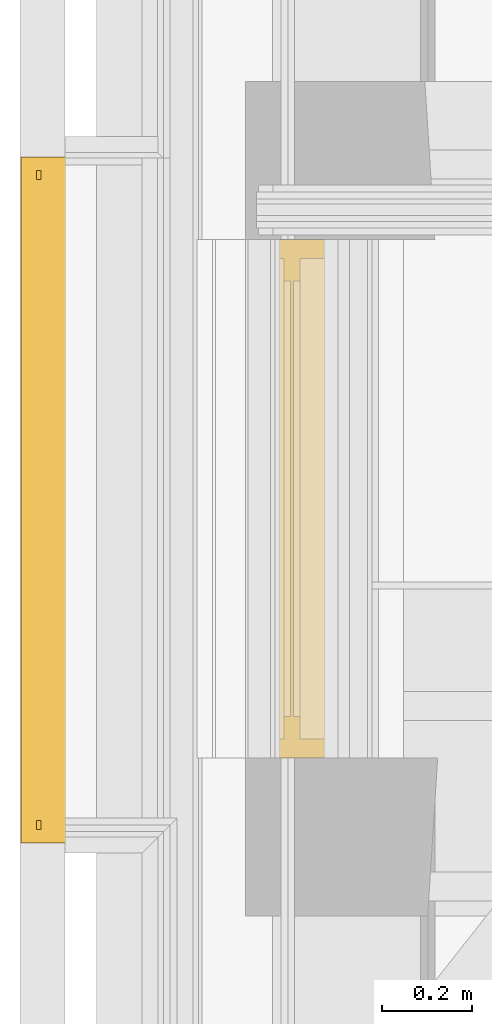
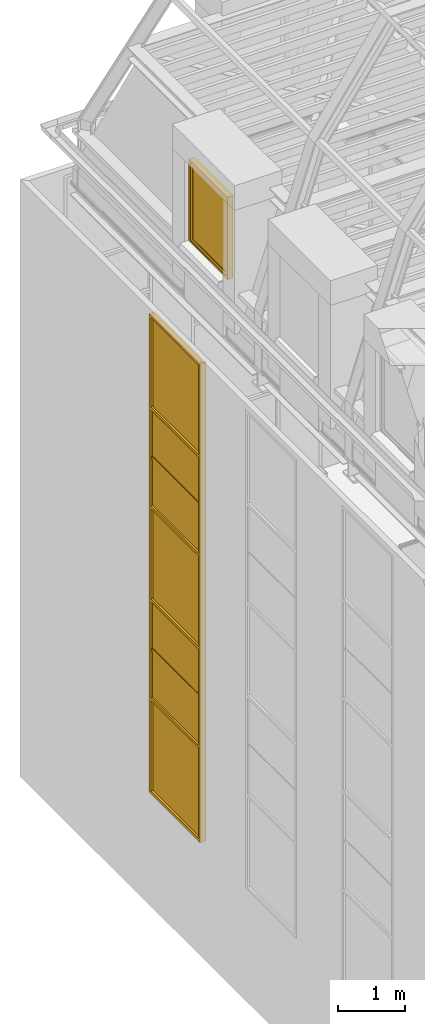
# One storey, part 122 of 183: 1 curtain wall, 1 window.
"""IFC2X3 building model written with IfcOpenShell, lengths in metres."""

from ifc_helpers import new_model, entity, si_unit, converted_unit, derived_unit, money_unit, direction, frame, origin_with_axes, place, context, subcontext, project, spatial, faceted_brep, material, type_object, element, save


model = new_model("IFC2X3")

# Units and contexts
model_context = context("Model", 3, precision=1e-05, world=origin_with_axes(), true_north=direction((0.0, 1.0)))
body_context = subcontext(model_context, "Body", "Model", "MODEL_VIEW", scale=1.0)
ifc_project = project(units=[si_unit("LENGTHUNIT", "METRE"), si_unit("AREAUNIT", "SQUARE_METRE"), si_unit("VOLUMEUNIT", "CUBIC_METRE"), si_unit("ABSORBEDDOSEUNIT", "GRAY"), si_unit("AMOUNTOFSUBSTANCEUNIT", "MOLE"), si_unit("DOSEEQUIVALENTUNIT", "SIEVERT"), si_unit("ELECTRICCAPACITANCEUNIT", "FARAD"), si_unit("ELECTRICCHARGEUNIT", "COULOMB"), si_unit("ELECTRICCONDUCTANCEUNIT", "SIEMENS"), si_unit("ELECTRICCURRENTUNIT", "AMPERE"), si_unit("ELECTRICRESISTANCEUNIT", "OHM"), si_unit("ELECTRICVOLTAGEUNIT", "VOLT"), si_unit("ENERGYUNIT", "JOULE"), si_unit("FORCEUNIT", "NEWTON"), si_unit("FREQUENCYUNIT", "HERTZ"), si_unit("ILLUMINANCEUNIT", "LUX"), si_unit("INDUCTANCEUNIT", "HENRY"), si_unit("LUMINOUSFLUXUNIT", "LUMEN"), si_unit("LUMINOUSINTENSITYUNIT", "CANDELA"), si_unit("MAGNETICFLUXDENSITYUNIT", "TESLA"), si_unit("MAGNETICFLUXUNIT", "WEBER"), si_unit("MASSUNIT", "GRAM"), converted_unit("PLANEANGLEUNIT", "degree", entity("IfcReal", 0.0174532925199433), si_unit("PLANEANGLEUNIT", "RADIAN"), dimensions=[0, 0, 0, 0, 0, 0, 0]), si_unit("POWERUNIT", "WATT"), si_unit("PRESSUREUNIT", "PASCAL"), si_unit("RADIOACTIVITYUNIT", "BECQUEREL"), si_unit("SOLIDANGLEUNIT", "STERADIAN"), si_unit("THERMODYNAMICTEMPERATUREUNIT", "KELVIN"), si_unit("TIMEUNIT", "SECOND"), derived_unit("ACCELERATIONUNIT", [(si_unit("LENGTHUNIT", "METRE"), 1), (si_unit("TIMEUNIT", "SECOND"), -2)]), derived_unit("ANGULARVELOCITYUNIT", [(converted_unit("PLANEANGLEUNIT", "degree", entity("IfcReal", 0.0174532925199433), si_unit("PLANEANGLEUNIT", "RADIAN"), dimensions=[0, 0, 0, 0, 0, 0, 0]), 1), (si_unit("TIMEUNIT", "SECOND"), -1)]), derived_unit("CURVATUREUNIT", [(converted_unit("PLANEANGLEUNIT", "degree", entity("IfcReal", 0.0174532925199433), si_unit("PLANEANGLEUNIT", "RADIAN"), dimensions=[0, 0, 0, 0, 0, 0, 0]), 1), (si_unit("LENGTHUNIT", "METRE"), -1)]), derived_unit("DYNAMICVISCOSITYUNIT", [(si_unit("PRESSUREUNIT", "PASCAL"), 1), (si_unit("TIMEUNIT", "SECOND"), 1)]), derived_unit("HEATFLUXDENSITYUNIT", [(si_unit("POWERUNIT", "WATT"), 1), (si_unit("LENGTHUNIT", "METRE"), -2)]), derived_unit("HEATINGVALUEUNIT", [(si_unit("ENERGYUNIT", "JOULE"), 1), (si_unit("MASSUNIT", "GRAM"), -1)]), derived_unit("INTEGERCOUNTRATEUNIT", [(si_unit("TIMEUNIT", "SECOND"), -1)]), derived_unit("IONCONCENTRATIONUNIT", [(si_unit("MASSUNIT", "GRAM"), 1), (si_unit("VOLUMEUNIT", "CUBIC_METRE"), -1)]), derived_unit("ISOTHERMALMOISTURECAPACITYUNIT", [(si_unit("VOLUMEUNIT", "CUBIC_METRE"), 1), (si_unit("MASSUNIT", "GRAM"), -1)]), derived_unit("KINEMATICVISCOSITYUNIT", [(si_unit("AREAUNIT", "SQUARE_METRE"), 1), (si_unit("TIMEUNIT", "SECOND"), -1)]), derived_unit("LINEARFORCEUNIT", [(si_unit("FORCEUNIT", "NEWTON"), 1), (si_unit("LENGTHUNIT", "METRE"), -1)]), derived_unit("LINEARMOMENTUNIT", [(si_unit("FORCEUNIT", "NEWTON"), 1), (si_unit("LENGTHUNIT", "METRE"), -1)]), derived_unit("LINEARSTIFFNESSUNIT", [(si_unit("FORCEUNIT", "NEWTON"), 1), (si_unit("LENGTHUNIT", "METRE"), -1)]), derived_unit("LINEARVELOCITYUNIT", [(si_unit("LENGTHUNIT", "METRE"), 1), (si_unit("TIMEUNIT", "SECOND"), -1)]), derived_unit("LUMINOUSINTENSITYDISTRIBUTIONUNIT", [(si_unit("LUMINOUSINTENSITYUNIT", "CANDELA"), 1), (si_unit("LUMINOUSFLUXUNIT", "LUMEN"), -1)]), derived_unit("MASSDENSITYUNIT", [(si_unit("MASSUNIT", "GRAM"), 1), (si_unit("VOLUMEUNIT", "CUBIC_METRE"), -1)]), derived_unit("MASSFLOWRATEUNIT", [(si_unit("MASSUNIT", "GRAM"), 1), (si_unit("TIMEUNIT", "SECOND"), -1)]), derived_unit("MASSPERLENGTHUNIT", [(si_unit("MASSUNIT", "GRAM"), 1), (si_unit("LENGTHUNIT", "METRE"), -1)]), derived_unit("MODULUSOFELASTICITYUNIT", [(si_unit("FORCEUNIT", "NEWTON"), 1), (si_unit("AREAUNIT", "SQUARE_METRE"), -1)]), derived_unit("MODULUSOFLINEARSUBGRADEREACTIONUNIT", [(si_unit("FORCEUNIT", "NEWTON"), 1), (si_unit("LENGTHUNIT", "METRE"), -2)]), derived_unit("MODULUSOFROTATIONALSUBGRADEREACTIONUNIT", [(si_unit("FORCEUNIT", "NEWTON"), 1), (si_unit("LENGTHUNIT", "METRE"), 1)]), derived_unit("MODULUSOFSUBGRADEREACTIONUNIT", [(si_unit("FORCEUNIT", "NEWTON"), 1), (si_unit("VOLUMEUNIT", "CUBIC_METRE"), -1)]), derived_unit("MOISTUREDIFFUSIVITYUNIT", [(si_unit("VOLUMEUNIT", "CUBIC_METRE"), 1), (si_unit("TIMEUNIT", "SECOND"), -1)]), derived_unit("MOLECULARWEIGHTUNIT", [(si_unit("MASSUNIT", "GRAM"), 1), (si_unit("AMOUNTOFSUBSTANCEUNIT", "MOLE"), -1)]), derived_unit("PLANARFORCEUNIT", [(si_unit("FORCEUNIT", "NEWTON"), 1), (si_unit("LENGTHUNIT", "METRE"), -2)]), derived_unit("ROTATIONALFREQUENCYUNIT", [(si_unit("TIMEUNIT", "SECOND"), -1)]), derived_unit("ROTATIONALMASSUNIT", [(si_unit("MASSUNIT", "GRAM"), 1), (si_unit("LENGTHUNIT", "METRE"), 2)]), derived_unit("ROTATIONALSTIFFNESSUNIT", [(si_unit("FORCEUNIT", "NEWTON"), 1), (si_unit("LENGTHUNIT", "METRE"), 1), (converted_unit("PLANEANGLEUNIT", "degree", entity("IfcReal", 0.0174532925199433), si_unit("PLANEANGLEUNIT", "RADIAN"), dimensions=[0, 0, 0, 0, 0, 0, 0]), -1)]), derived_unit("SECTIONAREAINTEGRALUNIT", [(si_unit("LENGTHUNIT", "METRE"), 5)]), derived_unit("SECTIONMODULUSUNIT", [(si_unit("LENGTHUNIT", "METRE"), 3)]), derived_unit("SHEARMODULUSUNIT", [(si_unit("FORCEUNIT", "NEWTON"), 1), (si_unit("AREAUNIT", "SQUARE_METRE"), -1)]), derived_unit("SOUNDPOWERUNIT", [(si_unit("ENERGYUNIT", "JOULE"), 1), (si_unit("TIMEUNIT", "SECOND"), -1)]), derived_unit("SPECIFICHEATCAPACITYUNIT", [(si_unit("FORCEUNIT", "NEWTON"), 1), (si_unit("MASSUNIT", "GRAM"), -1), (si_unit("THERMODYNAMICTEMPERATUREUNIT", "KELVIN"), -1)]), derived_unit("TEMPERATUREGRADIENTUNIT", [(si_unit("THERMODYNAMICTEMPERATUREUNIT", "KELVIN"), 1), (si_unit("LENGTHUNIT", "METRE"), -1)]), derived_unit("THERMALADMITTANCEUNIT", [(si_unit("POWERUNIT", "WATT"), 1), (si_unit("AREAUNIT", "SQUARE_METRE"), -1), (si_unit("THERMODYNAMICTEMPERATUREUNIT", "KELVIN"), -1)]), derived_unit("THERMALCONDUCTANCEUNIT", [(si_unit("POWERUNIT", "WATT"), 1), (si_unit("LENGTHUNIT", "METRE"), -1), (si_unit("THERMODYNAMICTEMPERATUREUNIT", "KELVIN"), -1)]), derived_unit("THERMALEXPANSIONCOEFFICIENTUNIT", [(si_unit("THERMODYNAMICTEMPERATUREUNIT", "KELVIN"), -1)]), derived_unit("THERMALRESISTANCEUNIT", [(si_unit("AREAUNIT", "SQUARE_METRE"), 1), (si_unit("POWERUNIT", "WATT"), -1)]), derived_unit("THERMALTRANSMITTANCEUNIT", [(si_unit("POWERUNIT", "WATT"), 1), (si_unit("AREAUNIT", "SQUARE_METRE"), -1), (si_unit("THERMODYNAMICTEMPERATUREUNIT", "KELVIN"), -1)]), derived_unit("TORQUEUNIT", [(si_unit("FORCEUNIT", "NEWTON"), 1), (si_unit("LENGTHUNIT", "METRE"), 1)]), derived_unit("VAPORPERMEABILITYUNIT", [(si_unit("MASSUNIT", "GRAM"), 1), (si_unit("TIMEUNIT", "SECOND"), -1)]), derived_unit("VOLUMETRICFLOWRATEUNIT", [(si_unit("VOLUMEUNIT", "CUBIC_METRE"), 1), (si_unit("TIMEUNIT", "SECOND"), -1)]), derived_unit("WARPINGCONSTANTUNIT", [(si_unit("LENGTHUNIT", "METRE"), 6)]), derived_unit("WARPINGMOMENTUNIT", [(si_unit("FORCEUNIT", "NEWTON"), 1), (si_unit("LENGTHUNIT", "METRE"), 2)]), money_unit("GBP")], contexts=[model_context])

# Site, building, storey
site_placement = place(None, origin_with_axes())
site = spatial("IfcSite", under=ifc_project, at=site_placement, Name="Site", CompositionType="ELEMENT")
building_placement = place(site_placement, origin_with_axes())
building = spatial("IfcBuilding", under=site, at=building_placement, Name="Building01", CompositionType="ELEMENT")
storey_placement = place(building_placement, frame((0.0, 0.0, 5.15), z_axis=(0.0, 0.0, 1.0), x_axis=(1.0, 0.0, 0.0)))
storey = spatial("IfcBuildingStorey", under=building, at=storey_placement, Name="1F", CompositionType="ELEMENT", Elevation=5.15)

# Curtain wall
ifc_material_1 = material(Name="A-CurtainWall_Frame")
curtain_wall_type = type_object("IfcCurtainWallType", Name="Pattern - Maximum Spacing", PredefinedType="NOTDEFINED")
curtain_wall_placement = place(storey_placement, frame((0.0, 0.0, -5.15), z_axis=(0.0, 0.0, 1.0), x_axis=(1.0, 0.0, 0.0)))
element("IfcCurtainWall", 1, at=curtain_wall_placement, inside=storey, type_object=curtain_wall_type, material=ifc_material_1, Name="13", ObjectType="Pattern - Maximum Spacing", context=body_context, shape_type="Brep", body=[
    faceted_brep([(0.047043, 11.02718, 7.729632), (0.037043, 11.02718, 7.729632), (0.037043, 9.56718, 7.729632), (0.047043, 9.56718, 7.729632), (0.047043, 11.02718, 6.045508), (0.037043, 11.02718, 6.045508), (0.047043, 9.56718, 6.045508), (0.037043, 9.56718, 6.045508)], [[[0, 1, 2, 3]], [[4, 5, 1, 0]], [[6, 7, 5, 4]], [[3, 2, 7, 6]], [[1, 5, 7, 2]], [[3, 6, 4, 0]]]),
    faceted_brep([(0.002043, 9.58718, 6.015508), (0.037043, 9.58718, 6.015508), (0.037043, 9.56718, 6.015508), (0.047043, 9.56718, 6.015508), (0.047043, 9.58718, 6.015508), (0.102043, 9.58718, 6.015508), (0.102043, 9.53718, 6.015508), (0.002043, 9.53718, 6.015508), (0.002043, 9.53718, 7.734632), (0.002043, 9.58718, 7.734632), (0.037043, 9.58718, 7.734632), (0.037043, 9.56718, 7.734632), (0.047043, 9.56718, 7.734632), (0.047043, 9.58718, 7.734632), (0.102043, 9.58718, 7.734632), (0.102043, 9.53718, 7.734632)], [[[0, 1, 2, 3, 4, 5, 6, 7]], [[7, 8, 9, 0]], [[0, 9, 10, 1]], [[1, 10, 11, 2]], [[2, 11, 12, 3]], [[3, 12, 13, 4]], [[4, 13, 14, 5]], [[5, 14, 15, 6]], [[6, 15, 8, 7]]]),
    faceted_brep([(0.002043, 11.00718, 6.065508), (0.037043, 11.00718, 6.065508), (0.037043, 11.00718, 6.045508), (0.047043, 11.00718, 6.045508), (0.047043, 11.00718, 6.065508), (0.102043, 11.00718, 6.065508), (0.102043, 11.00718, 6.015508), (0.002043, 11.00718, 6.015508), (0.002043, 9.58718, 6.015508), (0.002043, 9.58718, 6.065508), (0.037043, 9.58718, 6.065508), (0.037043, 9.58718, 6.045508), (0.047043, 9.58718, 6.045508), (0.047043, 9.58718, 6.065508), (0.102043, 9.58718, 6.065508), (0.102043, 9.58718, 6.015508)], [[[0, 1, 2, 3, 4, 5, 6, 7]], [[7, 8, 9, 0]], [[0, 9, 10, 1]], [[1, 10, 11, 2]], [[2, 11, 12, 3]], [[3, 12, 13, 4]], [[4, 13, 14, 5]], [[5, 14, 15, 6]], [[6, 15, 8, 7]], [[8, 15, 14, 13, 12, 11, 10, 9]]]),
    faceted_brep([(0.037043, 11.02718, 6.015508), (0.037043, 11.02718, 7.734632), (0.037043, 11.00718, 7.734632), (0.037043, 11.00718, 6.015508), (0.047043, 11.02718, 6.015508), (0.047043, 11.02718, 7.734632), (0.047043, 11.00718, 6.015508), (0.047043, 11.00718, 7.734632), (0.102043, 11.00718, 6.015508), (0.102043, 11.00718, 7.734632), (0.102043, 11.05718, 6.015508), (0.102043, 11.05718, 7.734632), (0.002043, 11.05718, 6.015508), (0.002043, 11.05718, 7.734632), (0.002043, 11.00718, 6.015508), (0.002043, 11.00718, 7.734632)], [[[0, 1, 2, 3]], [[4, 5, 1, 0]], [[6, 7, 5, 4]], [[8, 9, 7, 6]], [[10, 11, 9, 8]], [[12, 13, 11, 10]], [[14, 15, 13, 12]], [[3, 2, 15, 14]], [[14, 12, 10, 8, 6, 4, 0, 3]]]),
    faceted_brep([(0.047043, 9.58718, 7.739632), (0.037043, 9.58718, 7.739632), (0.037043, 9.58718, 7.759632), (0.002043, 9.58718, 7.759632), (0.002043, 9.58718, 7.709632), (0.037043, 9.58718, 7.709632), (0.037043, 9.58718, 7.729632), (0.047043, 9.58718, 7.729632), (0.047043, 9.58718, 7.709632), (0.102043, 9.58718, 7.709632), (0.102043, 9.58718, 7.759632), (0.047043, 9.58718, 7.759632), (0.047043, 11.00718, 7.759632), (0.047043, 11.00718, 7.739632), (0.037043, 11.00718, 7.739632), (0.037043, 11.00718, 7.759632), (0.002043, 11.00718, 7.759632), (0.002043, 11.00718, 7.709632), (0.037043, 11.00718, 7.709632), (0.047043, 11.00718, 7.729632), (0.047043, 11.00718, 7.709632), (0.037043, 11.00718, 7.729632), (0.102043, 11.00718, 7.759632), (0.102043, 11.00718, 7.709632)], [[[0, 1, 2, 3, 4, 5, 6, 7, 8, 9, 10, 11]], [[11, 12, 13, 0]], [[0, 13, 14, 1]], [[1, 14, 15, 2]], [[2, 15, 16, 3]], [[3, 16, 17, 4]], [[4, 17, 18, 5]], [[7, 19, 20, 8]], [[6, 21, 19, 7]], [[5, 18, 21, 6]], [[10, 22, 12, 11]], [[9, 23, 22, 10]], [[8, 20, 23, 9]], [[20, 19, 21, 18, 17, 16, 15, 14, 13, 12, 22, 23]]]),
    faceted_brep([(0.052043, 11.02718, 8.626522), (0.032043, 11.02718, 8.626522), (0.032043, 9.56718, 8.626522), (0.052043, 9.56718, 8.626522), (0.052043, 11.02718, 7.739632), (0.032043, 11.02718, 7.739632), (0.052043, 9.56718, 7.739632), (0.032043, 9.56718, 7.739632)], [[[0, 1, 2, 3]], [[4, 5, 1, 0]], [[6, 7, 5, 4]], [[3, 2, 7, 6]], [[1, 5, 7, 2]], [[3, 6, 4, 0]]]),
    faceted_brep([(0.102043, 9.53718, 8.631522), (0.102043, 9.53718, 7.734632), (0.102043, 9.58718, 7.734632), (0.102043, 9.58718, 8.631522), (0.002043, 9.53718, 8.631522), (0.002043, 9.53718, 7.734632), (0.002043, 9.58718, 8.631522), (0.002043, 9.58718, 7.734632), (0.037043, 9.58718, 8.631522), (0.037043, 9.58718, 7.734632), (0.037043, 9.56718, 8.631522), (0.037043, 9.56718, 7.734632), (0.047043, 9.56718, 8.631522), (0.047043, 9.56718, 7.734632), (0.047043, 9.58718, 8.631522), (0.047043, 9.58718, 7.734632)], [[[0, 1, 2, 3]], [[4, 5, 1, 0]], [[6, 7, 5, 4]], [[8, 9, 7, 6]], [[10, 11, 9, 8]], [[12, 13, 11, 10]], [[14, 15, 13, 12]], [[3, 2, 15, 14]]]),
    faceted_brep([(0.037043, 11.02718, 7.734632), (0.037043, 11.02718, 8.631522), (0.037043, 11.00718, 8.631522), (0.037043, 11.00718, 7.734632), (0.047043, 11.02718, 7.734632), (0.047043, 11.02718, 8.631522), (0.047043, 11.00718, 7.734632), (0.047043, 11.00718, 8.631522), (0.102043, 11.00718, 7.734632), (0.102043, 11.00718, 8.631522), (0.102043, 11.05718, 7.734632), (0.102043, 11.05718, 8.631522), (0.002043, 11.05718, 7.734632), (0.002043, 11.05718, 8.631522), (0.002043, 11.00718, 7.734632), (0.002043, 11.00718, 8.631522)], [[[0, 1, 2, 3]], [[4, 5, 1, 0]], [[6, 7, 5, 4]], [[8, 9, 7, 6]], [[10, 11, 9, 8]], [[12, 13, 11, 10]], [[14, 15, 13, 12]], [[3, 2, 15, 14]]]),
    faceted_brep([(0.064543, 9.58718, 8.636522), (0.054543, 9.58718, 8.636522), (0.054543, 9.58718, 8.656522), (0.019543, 9.58718, 8.656522), (0.019543, 9.58718, 8.606522), (0.054543, 9.58718, 8.606522), (0.054543, 9.58718, 8.626522), (0.064543, 9.58718, 8.626522), (0.064543, 9.58718, 8.606522), (0.119543, 9.58718, 8.606522), (0.119543, 9.58718, 8.656522), (0.064543, 9.58718, 8.656522), (0.064543, 11.00718, 8.656522), (0.064543, 11.00718, 8.636522), (0.054543, 11.00718, 8.636522), (0.054543, 11.00718, 8.656522), (0.019543, 11.00718, 8.656522), (0.019543, 11.00718, 8.606522), (0.054543, 11.00718, 8.606522), (0.064543, 11.00718, 8.626522), (0.064543, 11.00718, 8.606522), (0.054543, 11.00718, 8.626522), (0.119543, 11.00718, 8.656522), (0.119543, 11.00718, 8.606522)], [[[0, 1, 2, 3, 4, 5, 6, 7, 8, 9, 10, 11]], [[11, 12, 13, 0]], [[0, 13, 14, 1]], [[1, 14, 15, 2]], [[2, 15, 16, 3]], [[3, 16, 17, 4]], [[4, 17, 18, 5]], [[7, 19, 20, 8]], [[6, 21, 19, 7]], [[5, 18, 21, 6]], [[10, 22, 12, 11]], [[9, 23, 22, 10]], [[8, 20, 23, 9]], [[20, 19, 21, 18, 17, 16, 15, 14, 13, 12, 22, 23]]]),
    faceted_brep([(0.052043, 11.02718, 9.523411), (0.032043, 11.02718, 9.523411), (0.032043, 9.56718, 9.523411), (0.052043, 9.56718, 9.523411), (0.052043, 11.02718, 8.636522), (0.032043, 11.02718, 8.636522), (0.052043, 9.56718, 8.636522), (0.032043, 9.56718, 8.636522)], [[[0, 1, 2, 3]], [[4, 5, 1, 0]], [[6, 7, 5, 4]], [[3, 2, 7, 6]], [[1, 5, 7, 2]], [[3, 6, 4, 0]]]),
    faceted_brep([(0.102043, 9.53718, 9.528411), (0.102043, 9.53718, 8.631522), (0.102043, 9.58718, 8.631522), (0.102043, 9.58718, 9.528411), (0.002043, 9.53718, 9.528411), (0.002043, 9.53718, 8.631522), (0.002043, 9.58718, 9.528411), (0.002043, 9.58718, 8.631522), (0.037043, 9.58718, 9.528411), (0.037043, 9.58718, 8.631522), (0.037043, 9.56718, 9.528411), (0.037043, 9.56718, 8.631522), (0.047043, 9.56718, 9.528411), (0.047043, 9.56718, 8.631522), (0.047043, 9.58718, 9.528411), (0.047043, 9.58718, 8.631522)], [[[0, 1, 2, 3]], [[4, 5, 1, 0]], [[6, 7, 5, 4]], [[8, 9, 7, 6]], [[10, 11, 9, 8]], [[12, 13, 11, 10]], [[14, 15, 13, 12]], [[3, 2, 15, 14]]]),
    faceted_brep([(0.037043, 11.02718, 8.631522), (0.037043, 11.02718, 9.528411), (0.037043, 11.00718, 9.528411), (0.037043, 11.00718, 8.631522), (0.047043, 11.02718, 8.631522), (0.047043, 11.02718, 9.528411), (0.047043, 11.00718, 8.631522), (0.047043, 11.00718, 9.528411), (0.102043, 11.00718, 8.631522), (0.102043, 11.00718, 9.528411), (0.102043, 11.05718, 8.631522), (0.102043, 11.05718, 9.528411), (0.002043, 11.05718, 8.631522), (0.002043, 11.05718, 9.528411), (0.002043, 11.00718, 8.631522), (0.002043, 11.00718, 9.528411)], [[[0, 1, 2, 3]], [[4, 5, 1, 0]], [[6, 7, 5, 4]], [[8, 9, 7, 6]], [[10, 11, 9, 8]], [[12, 13, 11, 10]], [[14, 15, 13, 12]], [[3, 2, 15, 14]]]),
    faceted_brep([(0.047043, 9.58718, 9.533411), (0.037043, 9.58718, 9.533411), (0.037043, 9.58718, 9.553411), (0.002043, 9.58718, 9.553411), (0.002043, 9.58718, 9.503411), (0.037043, 9.58718, 9.503411), (0.037043, 9.58718, 9.523411), (0.047043, 9.58718, 9.523411), (0.047043, 9.58718, 9.503411), (0.102043, 9.58718, 9.503411), (0.102043, 9.58718, 9.553411), (0.047043, 9.58718, 9.553411), (0.047043, 11.00718, 9.553411), (0.047043, 11.00718, 9.533411), (0.037043, 11.00718, 9.533411), (0.037043, 11.00718, 9.553411), (0.002043, 11.00718, 9.553411), (0.002043, 11.00718, 9.503411), (0.037043, 11.00718, 9.503411), (0.047043, 11.00718, 9.523411), (0.047043, 11.00718, 9.503411), (0.037043, 11.00718, 9.523411), (0.102043, 11.00718, 9.553411), (0.102043, 11.00718, 9.503411)], [[[0, 1, 2, 3, 4, 5, 6, 7, 8, 9, 10, 11]], [[11, 12, 13, 0]], [[0, 13, 14, 1]], [[1, 14, 15, 2]], [[2, 15, 16, 3]], [[3, 16, 17, 4]], [[4, 17, 18, 5]], [[7, 19, 20, 8]], [[6, 21, 19, 7]], [[5, 18, 21, 6]], [[10, 22, 12, 11]], [[9, 23, 22, 10]], [[8, 20, 23, 9]], [[20, 19, 21, 18, 17, 16, 15, 14, 13, 12, 22, 23]]]),
    faceted_brep([(0.047043, 11.02718, 11.217536), (0.037043, 11.02718, 11.217536), (0.037043, 9.56718, 11.217536), (0.047043, 9.56718, 11.217536), (0.047043, 11.02718, 9.533411), (0.037043, 11.02718, 9.533411), (0.047043, 9.56718, 9.533411), (0.037043, 9.56718, 9.533411)], [[[0, 1, 2, 3]], [[4, 5, 1, 0]], [[6, 7, 5, 4]], [[3, 2, 7, 6]], [[1, 5, 7, 2]], [[3, 6, 4, 0]]]),
    faceted_brep([(0.102043, 9.53718, 11.222536), (0.102043, 9.53718, 9.528411), (0.102043, 9.58718, 9.528411), (0.102043, 9.58718, 11.222536), (0.002043, 9.53718, 11.222536), (0.002043, 9.53718, 9.528411), (0.002043, 9.58718, 11.222536), (0.002043, 9.58718, 9.528411), (0.037043, 9.58718, 11.222536), (0.037043, 9.58718, 9.528411), (0.037043, 9.56718, 11.222536), (0.037043, 9.56718, 9.528411), (0.047043, 9.56718, 11.222536), (0.047043, 9.56718, 9.528411), (0.047043, 9.58718, 11.222536), (0.047043, 9.58718, 9.528411)], [[[0, 1, 2, 3]], [[4, 5, 1, 0]], [[6, 7, 5, 4]], [[8, 9, 7, 6]], [[10, 11, 9, 8]], [[12, 13, 11, 10]], [[14, 15, 13, 12]], [[3, 2, 15, 14]]]),
    faceted_brep([(0.037043, 11.02718, 9.528411), (0.037043, 11.02718, 11.222536), (0.037043, 11.00718, 11.222536), (0.037043, 11.00718, 9.528411), (0.047043, 11.02718, 9.528411), (0.047043, 11.02718, 11.222536), (0.047043, 11.00718, 9.528411), (0.047043, 11.00718, 11.222536), (0.102043, 11.00718, 9.528411), (0.102043, 11.00718, 11.222536), (0.102043, 11.05718, 9.528411), (0.102043, 11.05718, 11.222536), (0.002043, 11.05718, 9.528411), (0.002043, 11.05718, 11.222536), (0.002043, 11.00718, 9.528411), (0.002043, 11.00718, 11.222536)], [[[0, 1, 2, 3]], [[4, 5, 1, 0]], [[6, 7, 5, 4]], [[8, 9, 7, 6]], [[10, 11, 9, 8]], [[12, 13, 11, 10]], [[14, 15, 13, 12]], [[3, 2, 15, 14]]]),
    faceted_brep([(0.047043, 9.58718, 11.227536), (0.037043, 9.58718, 11.227536), (0.037043, 9.58718, 11.247536), (0.002043, 9.58718, 11.247536), (0.002043, 9.58718, 11.197536), (0.037043, 9.58718, 11.197536), (0.037043, 9.58718, 11.217536), (0.047043, 9.58718, 11.217536), (0.047043, 9.58718, 11.197536), (0.102043, 9.58718, 11.197536), (0.102043, 9.58718, 11.247536), (0.047043, 9.58718, 11.247536), (0.047043, 11.00718, 11.247536), (0.047043, 11.00718, 11.227536), (0.037043, 11.00718, 11.227536), (0.037043, 11.00718, 11.247536), (0.002043, 11.00718, 11.247536), (0.002043, 11.00718, 11.197536), (0.037043, 11.00718, 11.197536), (0.047043, 11.00718, 11.217536), (0.047043, 11.00718, 11.197536), (0.037043, 11.00718, 11.217536), (0.102043, 11.00718, 11.247536), (0.102043, 11.00718, 11.197536)], [[[0, 1, 2, 3, 4, 5, 6, 7, 8, 9, 10, 11]], [[11, 12, 13, 0]], [[0, 13, 14, 1]], [[1, 14, 15, 2]], [[2, 15, 16, 3]], [[3, 16, 17, 4]], [[4, 17, 18, 5]], [[7, 19, 20, 8]], [[6, 21, 19, 7]], [[5, 18, 21, 6]], [[10, 22, 12, 11]], [[9, 23, 22, 10]], [[8, 20, 23, 9]], [[20, 19, 21, 18, 17, 16, 15, 14, 13, 12, 22, 23]]]),
    faceted_brep([(0.052043, 11.02718, 12.114425), (0.032043, 11.02718, 12.114425), (0.032043, 9.56718, 12.114425), (0.052043, 9.56718, 12.114425), (0.052043, 11.02718, 11.227536), (0.032043, 11.02718, 11.227536), (0.052043, 9.56718, 11.227536), (0.032043, 9.56718, 11.227536)], [[[0, 1, 2, 3]], [[4, 5, 1, 0]], [[6, 7, 5, 4]], [[3, 2, 7, 6]], [[1, 5, 7, 2]], [[3, 6, 4, 0]]]),
    faceted_brep([(0.102043, 9.53718, 12.119425), (0.102043, 9.53718, 11.222536), (0.102043, 9.58718, 11.222536), (0.102043, 9.58718, 12.119425), (0.002043, 9.53718, 12.119425), (0.002043, 9.53718, 11.222536), (0.002043, 9.58718, 12.119425), (0.002043, 9.58718, 11.222536), (0.037043, 9.58718, 12.119425), (0.037043, 9.58718, 11.222536), (0.037043, 9.56718, 12.119425), (0.037043, 9.56718, 11.222536), (0.047043, 9.56718, 12.119425), (0.047043, 9.56718, 11.222536), (0.047043, 9.58718, 12.119425), (0.047043, 9.58718, 11.222536)], [[[0, 1, 2, 3]], [[4, 5, 1, 0]], [[6, 7, 5, 4]], [[8, 9, 7, 6]], [[10, 11, 9, 8]], [[12, 13, 11, 10]], [[14, 15, 13, 12]], [[3, 2, 15, 14]]]),
    faceted_brep([(0.037043, 11.02718, 11.222536), (0.037043, 11.02718, 12.119425), (0.037043, 11.00718, 12.119425), (0.037043, 11.00718, 11.222536), (0.047043, 11.02718, 11.222536), (0.047043, 11.02718, 12.119425), (0.047043, 11.00718, 11.222536), (0.047043, 11.00718, 12.119425), (0.102043, 11.00718, 11.222536), (0.102043, 11.00718, 12.119425), (0.102043, 11.05718, 11.222536), (0.102043, 11.05718, 12.119425), (0.002043, 11.05718, 11.222536), (0.002043, 11.05718, 12.119425), (0.002043, 11.00718, 11.222536), (0.002043, 11.00718, 12.119425)], [[[0, 1, 2, 3]], [[4, 5, 1, 0]], [[6, 7, 5, 4]], [[8, 9, 7, 6]], [[10, 11, 9, 8]], [[12, 13, 11, 10]], [[14, 15, 13, 12]], [[3, 2, 15, 14]]]),
    faceted_brep([(0.064543, 9.58718, 12.124425), (0.054543, 9.58718, 12.124425), (0.054543, 9.58718, 12.144425), (0.019543, 9.58718, 12.144425), (0.019543, 9.58718, 12.094425), (0.054543, 9.58718, 12.094425), (0.054543, 9.58718, 12.114425), (0.064543, 9.58718, 12.114425), (0.064543, 9.58718, 12.094425), (0.119543, 9.58718, 12.094425), (0.119543, 9.58718, 12.144425), (0.064543, 9.58718, 12.144425), (0.064543, 11.00718, 12.144425), (0.064543, 11.00718, 12.124425), (0.054543, 11.00718, 12.124425), (0.054543, 11.00718, 12.144425), (0.019543, 11.00718, 12.144425), (0.019543, 11.00718, 12.094425), (0.054543, 11.00718, 12.094425), (0.064543, 11.00718, 12.114425), (0.064543, 11.00718, 12.094425), (0.054543, 11.00718, 12.114425), (0.119543, 11.00718, 12.144425), (0.119543, 11.00718, 12.094425)], [[[0, 1, 2, 3, 4, 5, 6, 7, 8, 9, 10, 11]], [[11, 12, 13, 0]], [[0, 13, 14, 1]], [[1, 14, 15, 2]], [[2, 15, 16, 3]], [[3, 16, 17, 4]], [[4, 17, 18, 5]], [[7, 19, 20, 8]], [[6, 21, 19, 7]], [[5, 18, 21, 6]], [[10, 22, 12, 11]], [[9, 23, 22, 10]], [[8, 20, 23, 9]], [[20, 19, 21, 18, 17, 16, 15, 14, 13, 12, 22, 23]]]),
    faceted_brep([(0.047043, 9.56718, 13.021314), (0.037043, 9.56718, 13.021314), (0.037043, 11.02718, 13.021314), (0.047043, 11.02718, 13.021314), (0.047043, 9.56718, 14.685508), (0.037043, 9.56718, 14.685508), (0.047043, 11.02718, 14.685508), (0.037043, 11.02718, 14.685508)], [[[0, 1, 2, 3]], [[4, 5, 1, 0]], [[6, 7, 5, 4]], [[3, 2, 7, 6]], [[1, 5, 7, 2]], [[3, 6, 4, 0]]]),
    faceted_brep([(0.037043, 11.02718, 14.715508), (0.047043, 11.02718, 14.715508), (0.047043, 11.00718, 14.715508), (0.102043, 11.00718, 14.715508), (0.102043, 11.05718, 14.715508), (0.002043, 11.05718, 14.715508), (0.002043, 11.00718, 14.715508), (0.037043, 11.00718, 14.715508), (0.037043, 11.00718, 13.016314), (0.037043, 11.02718, 13.016314), (0.047043, 11.02718, 13.016314), (0.047043, 11.00718, 13.016314), (0.102043, 11.00718, 13.016314), (0.102043, 11.05718, 13.016314), (0.002043, 11.05718, 13.016314), (0.002043, 11.00718, 13.016314)], [[[0, 1, 2, 3, 4, 5, 6, 7]], [[7, 8, 9, 0]], [[0, 9, 10, 1]], [[1, 10, 11, 2]], [[2, 11, 12, 3]], [[3, 12, 13, 4]], [[4, 13, 14, 5]], [[5, 14, 15, 6]], [[6, 15, 8, 7]]]),
    faceted_brep([(0.037043, 9.58718, 14.685508), (0.047043, 9.58718, 14.685508), (0.047043, 9.58718, 14.665508), (0.102043, 9.58718, 14.665508), (0.102043, 9.58718, 14.715508), (0.002043, 9.58718, 14.715508), (0.002043, 9.58718, 14.665508), (0.037043, 9.58718, 14.665508), (0.037043, 11.00718, 14.665508), (0.037043, 11.00718, 14.685508), (0.047043, 11.00718, 14.685508), (0.047043, 11.00718, 14.665508), (0.102043, 11.00718, 14.665508), (0.102043, 11.00718, 14.715508), (0.002043, 11.00718, 14.715508), (0.002043, 11.00718, 14.665508)], [[[0, 1, 2, 3, 4, 5, 6, 7]], [[7, 8, 9, 0]], [[0, 9, 10, 1]], [[1, 10, 11, 2]], [[2, 11, 12, 3]], [[3, 12, 13, 4]], [[4, 13, 14, 5]], [[5, 14, 15, 6]], [[6, 15, 8, 7]], [[8, 15, 14, 13, 12, 11, 10, 9]]]),
    faceted_brep([(0.002043, 9.58718, 14.715508), (0.002043, 9.58718, 13.016314), (0.002043, 9.53718, 13.016314), (0.002043, 9.53718, 14.715508), (0.037043, 9.58718, 14.715508), (0.037043, 9.58718, 13.016314), (0.037043, 9.56718, 14.715508), (0.037043, 9.56718, 13.016314), (0.047043, 9.56718, 14.715508), (0.047043, 9.56718, 13.016314), (0.047043, 9.58718, 14.715508), (0.047043, 9.58718, 13.016314), (0.102043, 9.58718, 14.715508), (0.102043, 9.58718, 13.016314), (0.102043, 9.53718, 14.715508), (0.102043, 9.53718, 13.016314)], [[[0, 1, 2, 3]], [[4, 5, 1, 0]], [[6, 7, 5, 4]], [[8, 9, 7, 6]], [[10, 11, 9, 8]], [[12, 13, 11, 10]], [[14, 15, 13, 12]], [[3, 2, 15, 14]], [[14, 12, 10, 8, 6, 4, 0, 3]]]),
    faceted_brep([(0.037043, 11.00718, 13.021314), (0.047043, 11.00718, 13.021314), (0.047043, 11.00718, 13.041314), (0.102043, 11.00718, 13.041314), (0.102043, 11.00718, 12.991314), (0.047043, 11.00718, 12.991314), (0.047043, 11.00718, 13.011314), (0.037043, 11.00718, 13.011314), (0.037043, 11.00718, 12.991314), (0.002043, 11.00718, 12.991314), (0.002043, 11.00718, 13.041314), (0.037043, 11.00718, 13.041314), (0.037043, 9.58718, 13.041314), (0.037043, 9.58718, 13.021314), (0.047043, 9.58718, 13.021314), (0.047043, 9.58718, 13.041314), (0.102043, 9.58718, 13.041314), (0.102043, 9.58718, 12.991314), (0.047043, 9.58718, 12.991314), (0.037043, 9.58718, 13.011314), (0.037043, 9.58718, 12.991314), (0.047043, 9.58718, 13.011314), (0.002043, 9.58718, 13.041314), (0.002043, 9.58718, 12.991314)], [[[0, 1, 2, 3, 4, 5, 6, 7, 8, 9, 10, 11]], [[11, 12, 13, 0]], [[0, 13, 14, 1]], [[1, 14, 15, 2]], [[2, 15, 16, 3]], [[3, 16, 17, 4]], [[4, 17, 18, 5]], [[7, 19, 20, 8]], [[6, 21, 19, 7]], [[5, 18, 21, 6]], [[10, 22, 12, 11]], [[9, 23, 22, 10]], [[8, 20, 23, 9]], [[20, 19, 21, 18, 17, 16, 15, 14, 13, 12, 22, 23]]]),
    faceted_brep([(0.052043, 11.02718, 13.011314), (0.032043, 11.02718, 13.011314), (0.032043, 9.56718, 13.011314), (0.052043, 9.56718, 13.011314), (0.052043, 11.02718, 12.124425), (0.032043, 11.02718, 12.124425), (0.052043, 9.56718, 12.124425), (0.032043, 9.56718, 12.124425)], [[[0, 1, 2, 3]], [[4, 5, 1, 0]], [[6, 7, 5, 4]], [[3, 2, 7, 6]], [[1, 5, 7, 2]], [[3, 6, 4, 0]]]),
    faceted_brep([(0.102043, 9.53718, 13.016314), (0.102043, 9.53718, 12.119425), (0.102043, 9.58718, 12.119425), (0.102043, 9.58718, 13.016314), (0.002043, 9.53718, 13.016314), (0.002043, 9.53718, 12.119425), (0.002043, 9.58718, 13.016314), (0.002043, 9.58718, 12.119425), (0.037043, 9.58718, 13.016314), (0.037043, 9.58718, 12.119425), (0.037043, 9.56718, 13.016314), (0.037043, 9.56718, 12.119425), (0.047043, 9.56718, 13.016314), (0.047043, 9.56718, 12.119425), (0.047043, 9.58718, 13.016314), (0.047043, 9.58718, 12.119425)], [[[0, 1, 2, 3]], [[4, 5, 1, 0]], [[6, 7, 5, 4]], [[8, 9, 7, 6]], [[10, 11, 9, 8]], [[12, 13, 11, 10]], [[14, 15, 13, 12]], [[3, 2, 15, 14]]]),
    faceted_brep([(0.037043, 11.02718, 12.119425), (0.037043, 11.02718, 13.016314), (0.037043, 11.00718, 13.016314), (0.037043, 11.00718, 12.119425), (0.047043, 11.02718, 12.119425), (0.047043, 11.02718, 13.016314), (0.047043, 11.00718, 12.119425), (0.047043, 11.00718, 13.016314), (0.102043, 11.00718, 12.119425), (0.102043, 11.00718, 13.016314), (0.102043, 11.05718, 12.119425), (0.102043, 11.05718, 13.016314), (0.002043, 11.05718, 12.119425), (0.002043, 11.05718, 13.016314), (0.002043, 11.00718, 12.119425), (0.002043, 11.00718, 13.016314)], [[[0, 1, 2, 3]], [[4, 5, 1, 0]], [[6, 7, 5, 4]], [[8, 9, 7, 6]], [[10, 11, 9, 8]], [[12, 13, 11, 10]], [[14, 15, 13, 12]], [[3, 2, 15, 14]]]),
])

# Space
space_placement = place(storey_placement, frame((1.009939, 13.890379, 9.81), z_axis=(0.0, 0.0, 1.0), x_axis=(0.0, -1.0, 0.0)))
space = spatial("IfcSpace", under=storey, at=space_placement, Name="26", CompositionType="ELEMENT", InteriorOrExteriorSpace="NOTDEFINED")

# Window
ifc_material_2 = material(Name="A_BSUK_Windows")
window_style = type_object("IfcWindowStyle", Name="A-Awning", ConstructionType="NOTDEFINED", OperationType="USERDEFINED", ParameterTakesPrecedence=False, Sizeable=False)
window_placement = place(storey_placement, frame((0.549939, 9.724915, 10.78), z_axis=(0.0, 0.0, 1.0), x_axis=(0.0, -1.0, 0.0)))
element("IfcWindow", 2, at=window_placement, inside=space, type_object=window_style, material=ifc_material_2, Name="4.13", ObjectType="A-Awning", OverallHeight=1.50000000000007, OverallWidth=1.15000000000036, context=body_context, shape_type="Brep", body=[
    faceted_brep([(-1.108, 0.0254, 0.042), (-0.042, 0.0254, 0.042), (-0.042, 0.1254, 0.042), (-1.108, 0.1254, 0.042), (-1.108, 0.0254, 1.458), (-1.108, 0.1254, 1.458), (-0.042, 0.0254, 1.458), (-0.042, 0.1254, 1.458), (0.0, 0.0254, 0.0), (0.0, 0.0254, 1.5), (-1.15, 0.0254, 1.5), (-1.15, 0.0254, 0.0), (0.0, 0.1254, 1.5), (-1.15, 0.1254, 1.5), (-1.15, 0.1254, 0.0), (0.0, 0.1254, 0.0)], [[[0, 1, 2, 3]], [[4, 0, 3, 5]], [[6, 4, 5, 7]], [[8, 9, 10, 11], [4, 6, 1, 0]], [[1, 6, 7, 2]], [[12, 13, 10, 9]], [[14, 15, 8, 11]], [[13, 14, 11, 10]], [[13, 12, 15, 14], [2, 7, 5, 3]], [[15, 12, 9, 8]]]),
    faceted_brep([(-1.0572, 0.0354, 0.0928), (-0.0928, 0.0354, 0.0928), (-0.0928, 0.0704, 0.0928), (-1.0572, 0.0704, 0.0928), (-1.0572, 0.0354, 1.4072), (-1.0572, 0.0704, 1.4072), (-0.0928, 0.0354, 1.4072), (-0.0928, 0.0704, 1.4072), (-1.108, 0.0704, 1.458), (-0.042, 0.0704, 1.458), (-0.042, 0.0704, 0.042), (-1.108, 0.0704, 0.042), (-1.108, 0.0354, 1.458), (-0.042, 0.0354, 1.458), (-0.042, 0.0354, 0.042), (-1.108, 0.0354, 0.042)], [[[0, 1, 2, 3]], [[4, 0, 3, 5]], [[6, 4, 5, 7]], [[8, 9, 10, 11], [2, 7, 5, 3]], [[9, 8, 12, 13]], [[10, 9, 13, 14]], [[11, 10, 14, 15]], [[8, 11, 15, 12]], [[14, 13, 12, 15], [4, 6, 1, 0]], [[1, 6, 7, 2]]]),
    faceted_brep([(-0.0928, 0.049725, 0.0928), (-0.0928, 0.056075, 0.0928), (-0.0928, 0.056075, 1.4072), (-0.0928, 0.049725, 1.4072), (-1.0572, 0.049725, 1.4072), (-1.0572, 0.056075, 1.4072), (-1.0572, 0.056075, 0.0928), (-1.0572, 0.049725, 0.0928)], [[[0, 1, 2, 3]], [[4, 5, 6, 7]], [[3, 2, 5, 4]], [[3, 4, 7, 0]], [[7, 6, 1, 0]], [[1, 6, 5, 2]]]),
])

save(model, "model.ifc")
